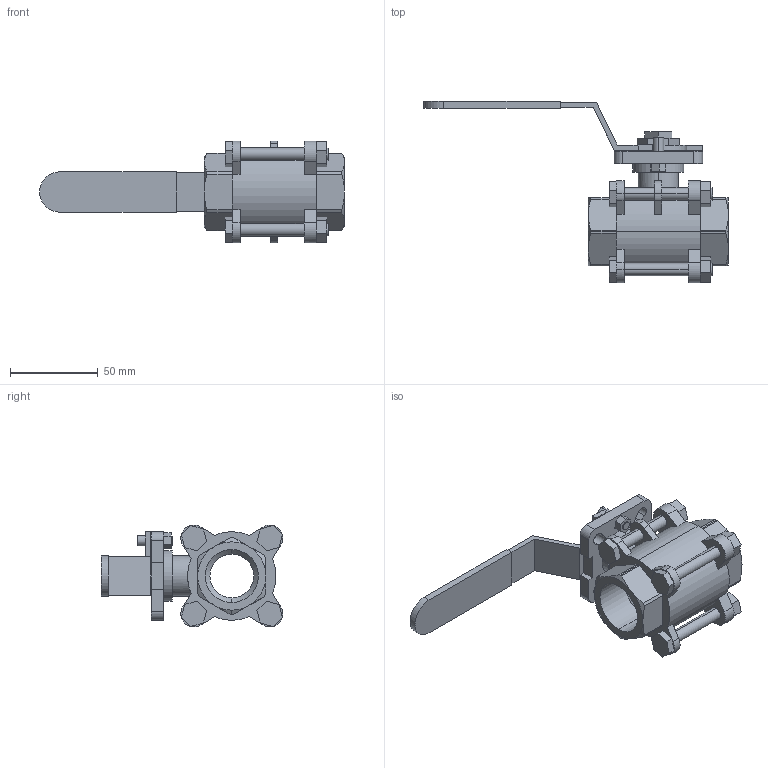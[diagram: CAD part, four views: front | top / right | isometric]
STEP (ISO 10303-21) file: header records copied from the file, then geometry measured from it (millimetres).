
FILE_DESCRIPTION (( 'STEP AP203' ), '1' );
FILE_NAME ('C3.622I025IFVPB0.STEP', '2018-10-12T12:36:04', ( '' ), ( '' ), 'SwSTEP 2.0', 'SolidWorks 2014', '' );
FILE_SCHEMA (( 'CONFIG_CONTROL_DESIGN' ));
Length unit declared in the file: millimetre
Products named in the file (1): C3.622I025IFVPB0
Bounding box: 174 x 103.55 x 58.13 mm (x, y, z)
Volume: 148862.1 mm3; surface area: 47382.8 mm2
Topology: 1 solids, 1 shells, 300 faces, 790 edges, 509 vertices
Faces by surface type: plane 199, cylinder 83, cone 18
Entity records: 9528 total; most frequent: CARTESIAN_POINT 1850, DIRECTION 1593, ORIENTED_EDGE 1580, EDGE_CURVE 790, AXIS2_PLACEMENT_3D 532, VECTOR 529, LINE 529, VERTEX_POINT 509
